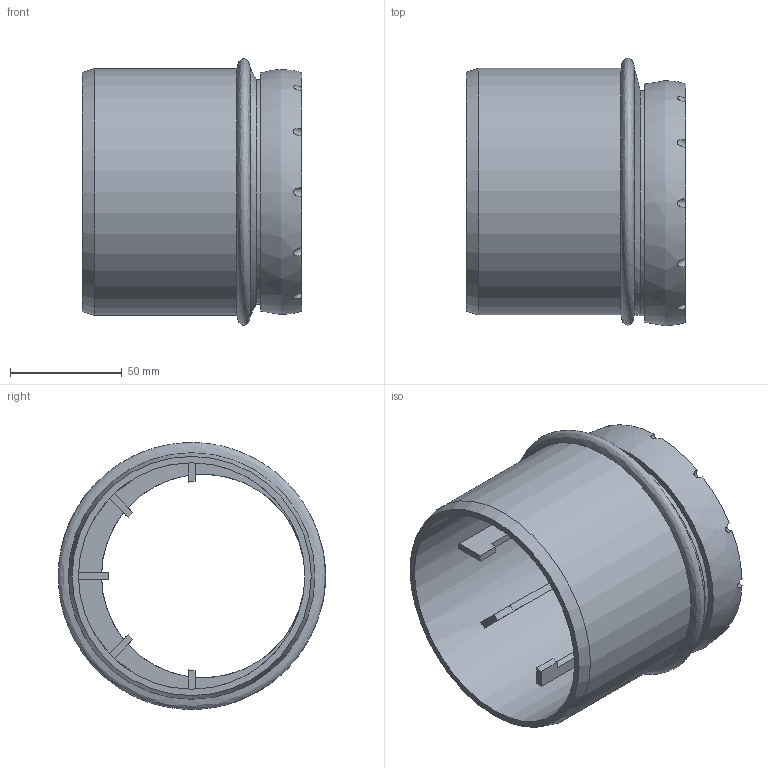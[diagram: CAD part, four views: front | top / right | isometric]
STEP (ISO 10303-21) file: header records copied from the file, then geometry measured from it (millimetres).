
FILE_DESCRIPTION(/* description */ (''),/* implementation_level */ '2;1');
FILE_NAME(/* name */ 'H:\Geberit-Teile\Export\Reduktion_ART\stp\393574.stp',/* time_stamp */ '2017-02-28T08:31:26+01:00',/* author */ ('seihe2'),/* organization */ (''),/* preprocessor_version */ 'ST-DEVELOPER v15.2',/* originating_system */ 'Autodesk Inventor 2014',/* authorisation */ '');
FILE_SCHEMA (('AUTOMOTIVE_DESIGN { 1 0 10303 214 3 1 1 }'));
Length unit declared in the file: millimetre
Products named in the file (1): 393574
Bounding box: 98 x 119.5 x 119.2 mm (x, y, z)
Volume: 169233.9 mm3; surface area: 80585 mm2
Topology: 1 solids, 1 shells, 59 faces, 161 edges, 107 vertices
Faces by surface type: plane 32, cylinder 23, bspline 3, cone 1
Full cylindrical faces by diameter (mm): 90.9 x1, 91.2 x1, 100.2 x1, 100.5 x1, 101.2 x1, 110.2 x1
Entity records: 2373 total; most frequent: CARTESIAN_POINT 791, DIRECTION 325, ORIENTED_EDGE 304, EDGE_CURVE 152, AXIS2_PLACEMENT_3D 131, VERTEX_POINT 105, EDGE_LOOP 71, LINE 63
